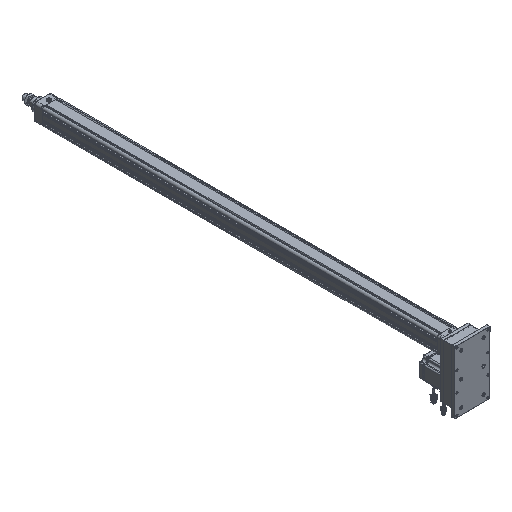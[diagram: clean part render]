
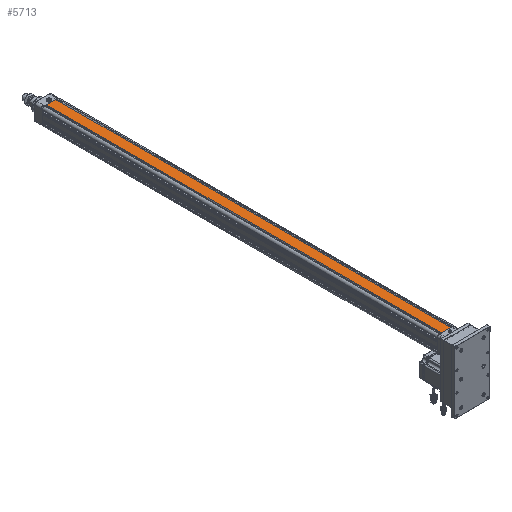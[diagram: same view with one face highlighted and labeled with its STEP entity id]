
A CAD part, isometric view. The second image highlights one B-rep face of the part: STEP entity #5713.
In plain terms, the highlighted planar face has unit normal (0, 0, 1).
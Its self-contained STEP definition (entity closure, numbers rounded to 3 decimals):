
#3172=DIRECTION('',(1.,0.,0.));
#3173=VECTOR('',#3172,34.);
#3174=CARTESIAN_POINT('',(-17.,-726.5,32.));
#3175=LINE('',#3174,#3173);
#3642=DIRECTION('',(1.,0.,0.));
#3643=VECTOR('',#3642,34.);
#3644=CARTESIAN_POINT('',(-17.,726.5,32.));
#3645=LINE('',#3644,#3643);
#3883=DIRECTION('',(0.,1.,0.));
#3884=VECTOR('',#3883,1453.);
#3885=CARTESIAN_POINT('',(17.,-726.5,32.));
#3886=LINE('',#3885,#3884);
#3887=DIRECTION('',(0.,1.,0.));
#3888=VECTOR('',#3887,1453.);
#3889=CARTESIAN_POINT('',(-17.,-726.5,32.));
#3890=LINE('',#3889,#3888);
#4599=CARTESIAN_POINT('',(17.,-726.5,32.));
#4600=VERTEX_POINT('',#4599);
#4601=CARTESIAN_POINT('',(-17.,-726.5,32.));
#4603=VERTEX_POINT('',#4601);
#4611=CARTESIAN_POINT('',(17.,726.5,32.));
#4612=VERTEX_POINT('',#4611);
#4613=CARTESIAN_POINT('',(-17.,726.5,32.));
#4615=VERTEX_POINT('',#4613);
#5700=CARTESIAN_POINT('',(-32.,-726.5,32.));
#5701=DIRECTION('',(0.,0.,1.));
#5702=DIRECTION('',(1.,0.,0.));
#5703=AXIS2_PLACEMENT_3D('',#5700,#5701,#5702);
#5704=PLANE('',#5703);
#5706=ORIENTED_EDGE('',*,*,#5705,.F.);
#5707=ORIENTED_EDGE('',*,*,#4970,.F.);
#5709=ORIENTED_EDGE('',*,*,#5708,.T.);
#5710=ORIENTED_EDGE('',*,*,#5331,.T.);
#5711=EDGE_LOOP('',(#5706,#5707,#5709,#5710));
#5712=FACE_OUTER_BOUND('',#5711,.F.);
#5713=ADVANCED_FACE('',(#5712),#5704,.T.);
#4970=EDGE_CURVE('',#4603,#4600,#3175,.T.);
#5331=EDGE_CURVE('',#4615,#4612,#3645,.T.);
#5705=EDGE_CURVE('',#4600,#4612,#3886,.T.);
#5708=EDGE_CURVE('',#4603,#4615,#3890,.T.);
